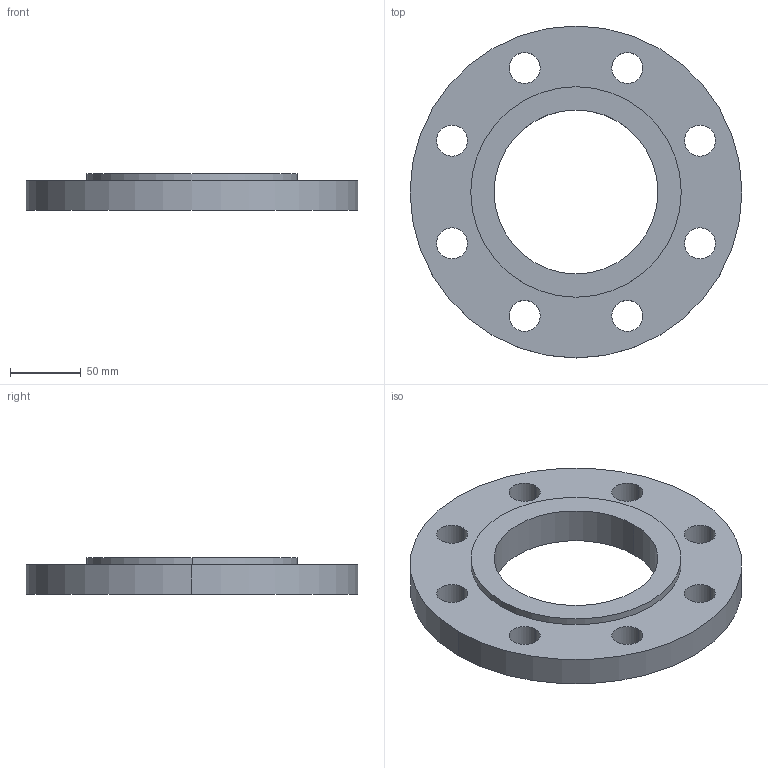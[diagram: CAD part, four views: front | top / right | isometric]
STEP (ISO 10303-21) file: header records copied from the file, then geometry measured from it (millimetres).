
FILE_DESCRIPTION (( 'STEP AP214' ), '1' );
FILE_NAME ('PN40 DN100 Type 01 - Type E Face.STEP', '2019-01-02T00:28:58', ( '' ), ( '' ), 'SwSTEP 2.0', 'SolidWorks 2019', '' );
FILE_SCHEMA (( 'AUTOMOTIVE_DESIGN' ));
Length unit declared in the file: millimetre
Products named in the file (1): PN40 DN100 Type 01 - Type E Face
Bounding box: 235 x 235 x 26 mm (x, y, z)
Volume: 659390.5 mm3; surface area: 98459.1 mm2
Topology: 1 solids, 1 shells, 25 faces, 66 edges, 44 vertices
Faces by surface type: cylinder 22, plane 3
Entity records: 874 total; most frequent: DIRECTION 162, CARTESIAN_POINT 136, ORIENTED_EDGE 132, AXIS2_PLACEMENT_3D 70, EDGE_CURVE 66, CIRCLE 44, EDGE_LOOP 44, VERTEX_POINT 44
